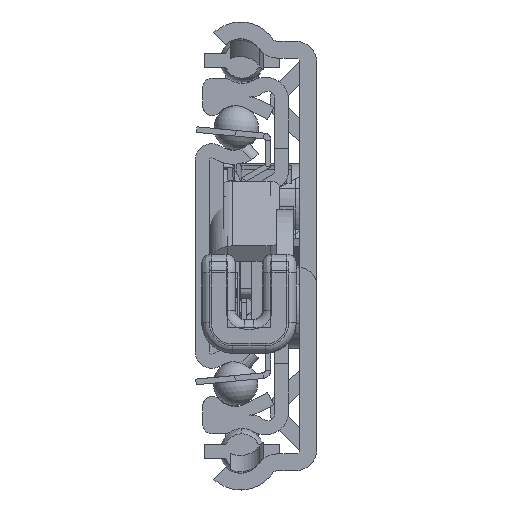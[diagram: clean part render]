
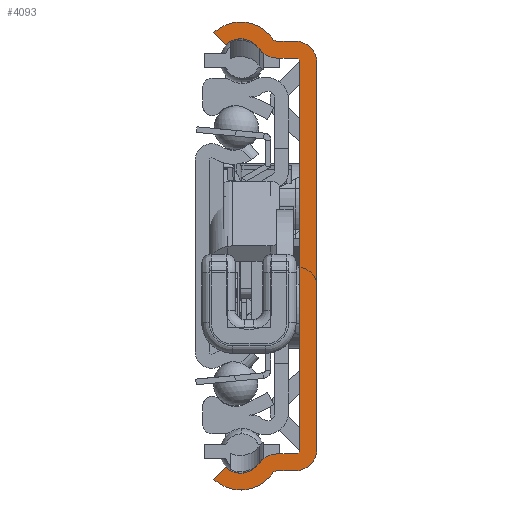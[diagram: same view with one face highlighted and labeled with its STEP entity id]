
A CAD part, left-side view. The second image highlights one B-rep face of the part: STEP entity #4093.
In plain terms, the highlighted planar face has unit normal (-1, 0, 0).
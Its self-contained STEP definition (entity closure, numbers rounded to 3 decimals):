
#1=DIRECTION('',(0.,1.,0.));
#2=VECTOR('',#1,1.975);
#3=CARTESIAN_POINT('',(0.,2.3,21.15));
#4=LINE('',#3,#2);
#5=CARTESIAN_POINT('',(0.,4.275,23.45));
#6=DIRECTION('',(-1.,0.,0.));
#7=DIRECTION('',(0.,0.827,-0.562));
#8=AXIS2_PLACEMENT_3D('',#5,#6,#7);
#10=CARTESIAN_POINT('',(0.,8.147,20.82));
#11=DIRECTION('',(-1.,0.,0.));
#12=DIRECTION('',(0.,-0.827,0.562));
#13=AXIS2_PLACEMENT_3D('',#10,#11,#12);
#15=DIRECTION('',(0.,0.683,0.731));
#16=VECTOR('',#15,1.8);
#17=CARTESIAN_POINT('',(0.,9.771,22.559));
#18=LINE('',#17,#16);
#19=CARTESIAN_POINT('',(0.,8.147,20.82));
#20=DIRECTION('',(1.,0.,0.));
#21=DIRECTION('',(0.,0.683,0.731));
#22=AXIS2_PLACEMENT_3D('',#19,#20,#21);
#24=DIRECTION('',(0.,-1.,0.));
#25=VECTOR('',#24,1.975);
#26=CARTESIAN_POINT('',(0.,4.275,22.95));
#27=LINE('',#26,#25);
#28=CARTESIAN_POINT('',(0.,2.3,20.65));
#29=DIRECTION('',(-1.,0.,0.));
#30=DIRECTION('',(0.,-1.,0.));
#31=AXIS2_PLACEMENT_3D('',#28,#29,#30);
#33=DIRECTION('',(0.,0.,-1.));
#34=VECTOR('',#33,41.3);
#35=CARTESIAN_POINT('',(0.,0.,20.65));
#36=LINE('',#35,#34);
#37=CARTESIAN_POINT('',(0.,2.3,-20.65));
#38=DIRECTION('',(-1.,0.,0.));
#39=DIRECTION('',(0.,0.,-1.));
#40=AXIS2_PLACEMENT_3D('',#37,#38,#39);
#42=DIRECTION('',(0.,1.,0.));
#43=VECTOR('',#42,1.975);
#44=CARTESIAN_POINT('',(0.,2.3,-22.95));
#45=LINE('',#44,#43);
#46=CARTESIAN_POINT('',(0.,8.147,-20.82));
#47=DIRECTION('',(1.,0.,0.));
#48=DIRECTION('',(0.,-0.827,-0.562));
#49=AXIS2_PLACEMENT_3D('',#46,#47,#48);
#51=DIRECTION('',(0.,-0.683,0.731));
#52=VECTOR('',#51,1.8);
#53=CARTESIAN_POINT('',(0.,11.,-23.875));
#54=LINE('',#53,#52);
#55=CARTESIAN_POINT('',(0.,8.147,-20.82));
#56=DIRECTION('',(-1.,0.,0.));
#57=DIRECTION('',(0.,0.683,-0.731));
#58=AXIS2_PLACEMENT_3D('',#55,#56,#57);
#60=CARTESIAN_POINT('',(0.,4.275,-23.45));
#61=DIRECTION('',(-1.,0.,0.));
#62=DIRECTION('',(0.,0.,1.));
#63=AXIS2_PLACEMENT_3D('',#60,#61,#62);
#65=DIRECTION('',(0.,-1.,0.));
#66=VECTOR('',#65,1.975);
#67=CARTESIAN_POINT('',(0.,4.275,-21.15));
#68=LINE('',#67,#66);
#181=DIRECTION('',(0.,0.,-1.));
#182=VECTOR('',#181,41.3);
#183=CARTESIAN_POINT('',(0.,1.8,20.65));
#184=LINE('',#183,#182);
#781=CARTESIAN_POINT('',(0.,2.3,-20.65));
#782=DIRECTION('',(1.,0.,0.));
#783=DIRECTION('',(0.,-1.,0.));
#784=AXIS2_PLACEMENT_3D('',#781,#782,#783);
#898=CARTESIAN_POINT('',(0.,4.275,-23.45));
#899=DIRECTION('',(1.,0.,0.));
#900=DIRECTION('',(0.,0.827,0.562));
#901=AXIS2_PLACEMENT_3D('',#898,#899,#900);
#1762=CARTESIAN_POINT('',(0.,4.275,23.45));
#1763=DIRECTION('',(1.,0.,0.));
#1764=DIRECTION('',(0.,0.,-1.));
#1765=AXIS2_PLACEMENT_3D('',#1762,#1763,#1764);
#1911=CARTESIAN_POINT('',(0.,2.3,20.65));
#1912=DIRECTION('',(1.,0.,0.));
#1913=DIRECTION('',(0.,0.,1.));
#1914=AXIS2_PLACEMENT_3D('',#1911,#1912,#1913);
#3124=CARTESIAN_POINT('',(0.,11.,-23.875));
#3125=CARTESIAN_POINT('',(0.,9.771,-22.559));
#3126=VERTEX_POINT('',#3124);
#3127=VERTEX_POINT('',#3125);
#3128=CARTESIAN_POINT('',(0.,9.771,22.559));
#3129=CARTESIAN_POINT('',(0.,11.,23.875));
#3130=VERTEX_POINT('',#3128);
#3131=VERTEX_POINT('',#3129);
#3140=CARTESIAN_POINT('',(0.,4.275,22.95));
#3141=CARTESIAN_POINT('',(0.,4.689,23.169));
#3142=VERTEX_POINT('',#3140);
#3143=VERTEX_POINT('',#3141);
#3148=CARTESIAN_POINT('',(0.,4.689,-23.169));
#3149=CARTESIAN_POINT('',(0.,4.275,-22.95));
#3150=VERTEX_POINT('',#3148);
#3151=VERTEX_POINT('',#3149);
#3156=CARTESIAN_POINT('',(0.,2.3,-21.15));
#3158=VERTEX_POINT('',#3156);
#3160=CARTESIAN_POINT('',(0.,2.3,21.15));
#3162=VERTEX_POINT('',#3160);
#3164=CARTESIAN_POINT('',(0.,1.8,-20.65));
#3165=VERTEX_POINT('',#3164);
#3168=CARTESIAN_POINT('',(0.,1.8,20.65));
#3169=VERTEX_POINT('',#3168);
#3172=CARTESIAN_POINT('',(0.,4.275,-21.15));
#3173=CARTESIAN_POINT('',(0.,6.178,-22.157));
#3174=VERTEX_POINT('',#3172);
#3175=VERTEX_POINT('',#3173);
#3180=CARTESIAN_POINT('',(0.,0.,20.65));
#3181=CARTESIAN_POINT('',(0.,2.3,22.95));
#3182=VERTEX_POINT('',#3180);
#3183=VERTEX_POINT('',#3181);
#3188=CARTESIAN_POINT('',(0.,6.178,22.157));
#3189=CARTESIAN_POINT('',(0.,4.275,21.15));
#3190=VERTEX_POINT('',#3188);
#3191=VERTEX_POINT('',#3189);
#3196=CARTESIAN_POINT('',(0.,2.3,-22.95));
#3197=CARTESIAN_POINT('',(0.,0.,-20.65));
#3198=VERTEX_POINT('',#3196);
#3199=VERTEX_POINT('',#3197);
#4046=CARTESIAN_POINT('',(0.,0.,0.));
#4047=DIRECTION('',(1.,0.,0.));
#4048=DIRECTION('',(0.,-1.,0.));
#4049=AXIS2_PLACEMENT_3D('',#4046,#4047,#4048);
#4050=PLANE('',#4049);
#4052=ORIENTED_EDGE('',*,*,#4051,.F.);
#4054=ORIENTED_EDGE('',*,*,#4053,.F.);
#4056=ORIENTED_EDGE('',*,*,#4055,.T.);
#4058=ORIENTED_EDGE('',*,*,#4057,.F.);
#4060=ORIENTED_EDGE('',*,*,#4059,.T.);
#4062=ORIENTED_EDGE('',*,*,#4061,.T.);
#4064=ORIENTED_EDGE('',*,*,#4063,.T.);
#4066=ORIENTED_EDGE('',*,*,#4065,.F.);
#4068=ORIENTED_EDGE('',*,*,#4067,.T.);
#4070=ORIENTED_EDGE('',*,*,#4069,.F.);
#4072=ORIENTED_EDGE('',*,*,#4071,.T.);
#4074=ORIENTED_EDGE('',*,*,#4073,.F.);
#4076=ORIENTED_EDGE('',*,*,#4075,.T.);
#4078=ORIENTED_EDGE('',*,*,#4077,.F.);
#4080=ORIENTED_EDGE('',*,*,#4079,.T.);
#4082=ORIENTED_EDGE('',*,*,#4081,.T.);
#4084=ORIENTED_EDGE('',*,*,#4083,.T.);
#4086=ORIENTED_EDGE('',*,*,#4085,.F.);
#4088=ORIENTED_EDGE('',*,*,#4087,.T.);
#4090=ORIENTED_EDGE('',*,*,#4089,.F.);
#4091=EDGE_LOOP('',(#4052,#4054,#4056,#4058,#4060,#4062,#4064,#4066,#4068,#4070,
#4072,#4074,#4076,#4078,#4080,#4082,#4084,#4086,#4088,#4090));
#4092=FACE_OUTER_BOUND('',#4091,.F.);
#9=CIRCLE('',#8,2.3);
#14=CIRCLE('',#13,2.38);
#23=CIRCLE('',#22,4.18);
#32=CIRCLE('',#31,2.3);
#41=CIRCLE('',#40,2.3);
#50=CIRCLE('',#49,4.18);
#59=CIRCLE('',#58,2.38);
#64=CIRCLE('',#63,2.3);
#785=CIRCLE('',#784,0.5);
#902=CIRCLE('',#901,0.5);
#1766=CIRCLE('',#1765,0.5);
#1915=CIRCLE('',#1914,0.5);
#4051=EDGE_CURVE('',#3169,#3165,#184,.T.);
#4053=EDGE_CURVE('',#3162,#3169,#1915,.T.);
#4055=EDGE_CURVE('',#3162,#3191,#4,.T.);
#4057=EDGE_CURVE('',#3190,#3191,#9,.T.);
#4059=EDGE_CURVE('',#3190,#3130,#14,.T.);
#4061=EDGE_CURVE('',#3130,#3131,#18,.T.);
#4063=EDGE_CURVE('',#3131,#3143,#23,.T.);
#4065=EDGE_CURVE('',#3142,#3143,#1766,.T.);
#4067=EDGE_CURVE('',#3142,#3183,#27,.T.);
#4069=EDGE_CURVE('',#3182,#3183,#32,.T.);
#4071=EDGE_CURVE('',#3182,#3199,#36,.T.);
#4073=EDGE_CURVE('',#3198,#3199,#41,.T.);
#4075=EDGE_CURVE('',#3198,#3151,#45,.T.);
#4077=EDGE_CURVE('',#3150,#3151,#902,.T.);
#4079=EDGE_CURVE('',#3150,#3126,#50,.T.);
#4081=EDGE_CURVE('',#3126,#3127,#54,.T.);
#4083=EDGE_CURVE('',#3127,#3175,#59,.T.);
#4085=EDGE_CURVE('',#3174,#3175,#64,.T.);
#4087=EDGE_CURVE('',#3174,#3158,#68,.T.);
#4089=EDGE_CURVE('',#3165,#3158,#785,.T.);
#4093=ADVANCED_FACE('',(#4092),#4050,.F.);
